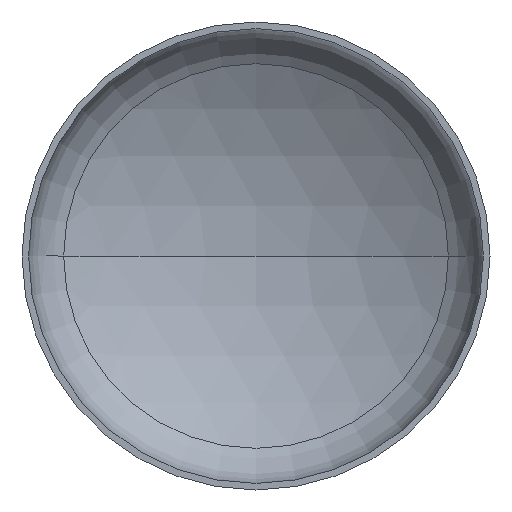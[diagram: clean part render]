
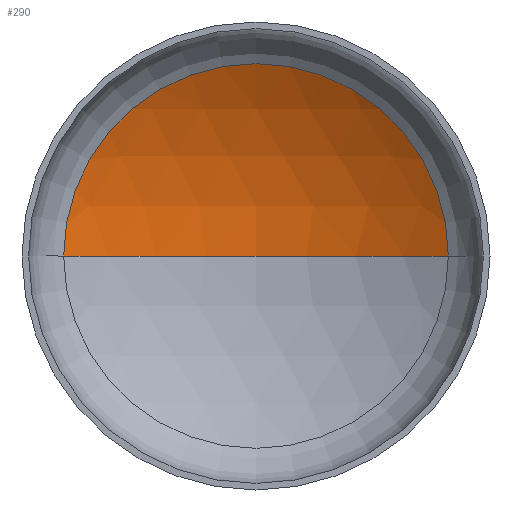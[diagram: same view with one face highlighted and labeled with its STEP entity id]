
A CAD part, front view. The second image highlights one B-rep face of the part: STEP entity #290.
In plain terms, the highlighted spherical face has radius 6000 mm.
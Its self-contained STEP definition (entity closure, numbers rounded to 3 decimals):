
#11 = AXIS2_PLACEMENT_3D ( 'NONE', #87, #92, #114 ) ;
#23 = CARTESIAN_POINT ( 'NONE',  ( 0., 1918.21, 0. ) ) ;
#40 = FACE_OUTER_BOUND ( 'NONE', #212, .T. ) ;
#44 = AXIS2_PLACEMENT_3D ( 'NONE', #302, #292, #291 ) ;
#46 = AXIS2_PLACEMENT_3D ( 'NONE', #287, #286, #143 ) ;
#48 = AXIS2_PLACEMENT_3D ( 'NONE', #303, #307, #306 ) ;
#60 = ORIENTED_EDGE ( 'NONE', *, *, #77, .F. ) ;
#75 = EDGE_CURVE ( 'NONE', #89, #97, #400, .T. ) ;
#76 = EDGE_CURVE ( 'NONE', #226, #89, #350, .T. ) ;
#77 = EDGE_CURVE ( 'NONE', #226, #97, #289, .T. ) ;
#87 = CARTESIAN_POINT ( 'NONE',  ( 0., -4081.79, 0. ) ) ;
#89 = VERTEX_POINT ( 'NONE', #316 ) ;
#92 = DIRECTION ( 'NONE',  ( 0., 0., -1. ) ) ;
#97 = VERTEX_POINT ( 'NONE', #379 ) ;
#114 = DIRECTION ( 'NONE',  ( -1., 0., 0. ) ) ;
#143 = DIRECTION ( 'NONE',  ( -1., 0., 0. ) ) ;
#211 = ORIENTED_EDGE ( 'NONE', *, *, #75, .T. ) ;
#212 = EDGE_LOOP ( 'NONE', ( #60, #245, #211 ) ) ;
#226 = VERTEX_POINT ( 'NONE', #23 ) ;
#245 = ORIENTED_EDGE ( 'NONE', *, *, #76, .T. ) ;
#286 = DIRECTION ( 'NONE',  ( 0., 0., -1. ) ) ;
#287 = CARTESIAN_POINT ( 'NONE',  ( 0., -4081.79, 0. ) ) ;
#289 = CIRCLE ( 'NONE', #44, 6000. ) ;
#290 = ADVANCED_FACE ( 'NONE', ( #40 ), #378, .F. ) ;
#291 = DIRECTION ( 'NONE',  ( 1., 0., 0. ) ) ;
#292 = DIRECTION ( 'NONE',  ( 0., 0., 1. ) ) ;
#302 = CARTESIAN_POINT ( 'NONE',  ( 0., -4081.79, 0. ) ) ;
#303 = CARTESIAN_POINT ( 'NONE',  ( 0., 1065.938, 0. ) ) ;
#306 = DIRECTION ( 'NONE',  ( 1., 0., 0. ) ) ;
#307 = DIRECTION ( 'NONE',  ( 0., -1., 0. ) ) ;
#316 = CARTESIAN_POINT ( 'NONE',  ( 3082.353, 1065.938, 0. ) ) ;
#350 = CIRCLE ( 'NONE', #46, 6000. ) ;
#378 = SPHERICAL_SURFACE ( 'NONE', #11, 6000. ) ;
#379 = CARTESIAN_POINT ( 'NONE',  ( -3082.353, 1065.938, 0. ) ) ;
#400 = CIRCLE ( 'NONE', #48, 3082.353 ) ;
